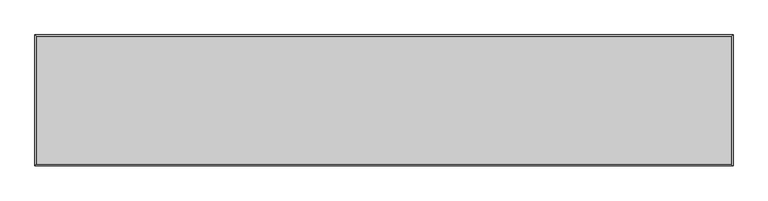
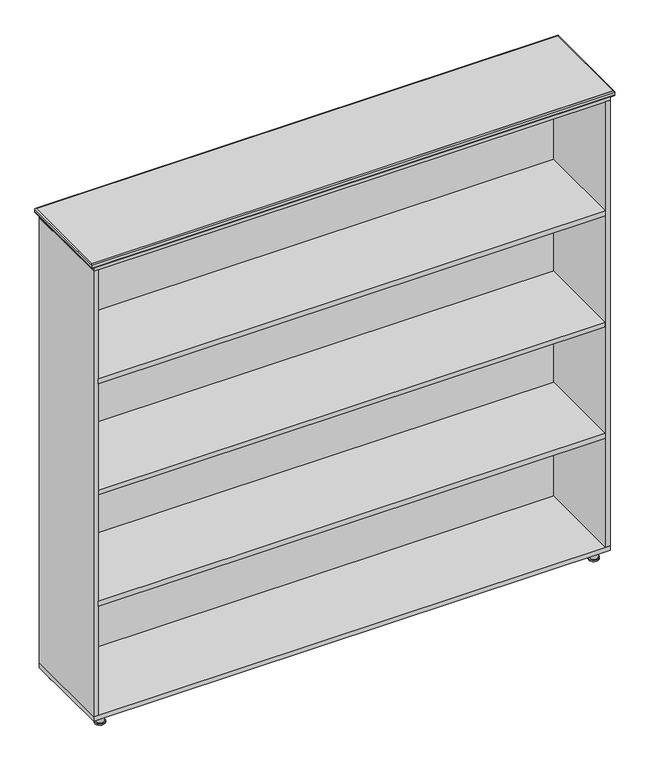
"""IFC4 building model written with IfcOpenShell, lengths in millimetres: furniture geometry, 书柜7 : W800*D419*H1515mm 4."""

from ifc_helpers import new_model, si_unit, point, frame, frame_2d, origin, origin_with_axes, place, context, project, spatial, polyline, circle_curve, ellipse_curve, trimmed, segment, composite_curve, outline, extrude, source, transform, mapped, element, save
from ifc_brep_helpers import plane_surface, cylinder_surface, advanced_brep


def furniture_b8bd35c5(model_context):
    return source(origin(), model_context, "Body", "SolidModel", [
        extrude(outline(polyline([(775.0, 159.2785466), (775.0, -115.0), (-775.0, -115.0), (-775.0, 159.2785466), (775.0, 159.2785466)])), frame((0.0, 0.0, 397.0), z_axis=(0.0, 0.0, 1.0), x_axis=(1.0, 0.0, 0.0)), (0.0, 0.0, 1.0), 16.0),
        extrude(outline(polyline([(775.0, 159.2785466), (775.0, -115.0), (-775.0, -115.0), (-775.0, 159.2785466), (775.0, 159.2785466)])), frame((0.0, 0.0, 1117.0), z_axis=(0.0, 0.0, 1.0), x_axis=(1.0, 0.0, 0.0)), (0.0, 0.0, 1.0), 16.0),
        extrude(outline(polyline([(775.0, 165.0), (775.0, 159.2785466), (-775.0, 159.2785466), (-775.0, 165.0), (775.0, 165.0)])), frame((0.0, 0.0, 45.0), z_axis=(0.0, 0.0, 1.0), x_axis=(1.0, 0.0, 0.0)), (0.0, 0.0, 1.0), 1440.0),
        extrude(outline(composite_curve([segment(trimmed(circle_curve(frame_2d((755.0, 149.3474913)), 11.561262), [point((766.561262, 149.3474913))], [point((743.438738, 149.3474913))], False, "CARTESIAN"), True, "CONTINUOUS"), segment(trimmed(circle_curve(frame_2d((755.0, 149.3474913)), 11.561262), [point((743.438738, 149.3474913))], [point((766.561262, 149.3474913))], False, "CARTESIAN"), True, "CONTINUOUS")], self_intersect=False)), frame((0.0, 0.0, 4.4532093), z_axis=(0.0, 0.0, 1.0), x_axis=(1.0, 0.0, 0.0)), (0.0, 0.0, 1.0), 25.5467907),
        extrude(outline(composite_curve([segment(trimmed(circle_curve(frame_2d((755.0, 149.3474913)), 15.4868656), [point((770.4868656, 149.3474913))], [point((739.5131344, 149.3474913))], False, "CARTESIAN"), True, "CONTINUOUS"), segment(trimmed(circle_curve(frame_2d((755.0, 149.3474913)), 15.4868656), [point((739.5131344, 149.3474913))], [point((770.4868656, 149.3474913))], False, "CARTESIAN"), True, "CONTINUOUS")], self_intersect=False)), origin_with_axes(), (0.0, 0.0, 1.0), 4.4532093),
        extrude(outline(composite_curve([segment(trimmed(circle_curve(frame_2d((-755.0, 149.3474913)), 11.561262), [point((-766.561262, 149.3474913))], [point((-743.438738, 149.3474913))], False, "CARTESIAN"), True, "CONTINUOUS"), segment(trimmed(circle_curve(frame_2d((-755.0, 149.3474913)), 11.561262), [point((-743.438738, 149.3474913))], [point((-766.561262, 149.3474913))], False, "CARTESIAN"), True, "CONTINUOUS")], self_intersect=False)), frame((0.0, 0.0, 4.4532093), z_axis=(0.0, 0.0, 1.0), x_axis=(1.0, 0.0, 0.0)), (0.0, 0.0, 1.0), 25.5467907),
        extrude(outline(composite_curve([segment(trimmed(circle_curve(frame_2d((-755.0, 149.3474913)), 15.4868656), [point((-770.4868656, 149.3474913))], [point((-739.5131344, 149.3474913))], False, "CARTESIAN"), True, "CONTINUOUS"), segment(trimmed(circle_curve(frame_2d((-755.0, 149.3474913)), 15.4868656), [point((-739.5131344, 149.3474913))], [point((-770.4868656, 149.3474913))], False, "CARTESIAN"), True, "CONTINUOUS")], self_intersect=False)), origin_with_axes(), (0.0, 0.0, 1.0), 4.4532093),
        extrude(outline(composite_curve([segment(trimmed(circle_curve(frame_2d((755.0, -88.0)), 11.561262), [point((766.561262, -88.0))], [point((743.438738, -88.0))], False, "CARTESIAN"), True, "CONTINUOUS"), segment(trimmed(circle_curve(frame_2d((755.0, -88.0)), 11.561262), [point((743.438738, -88.0))], [point((766.561262, -88.0))], False, "CARTESIAN"), True, "CONTINUOUS")], self_intersect=False)), frame((0.0, 0.0, 4.4532093), z_axis=(0.0, 0.0, 1.0), x_axis=(1.0, 0.0, 0.0)), (0.0, 0.0, 1.0), 25.5467907),
        extrude(outline(composite_curve([segment(trimmed(circle_curve(frame_2d((755.0, -88.0)), 15.4868656), [point((770.4868656, -88.0))], [point((739.5131344, -88.0))], False, "CARTESIAN"), True, "CONTINUOUS"), segment(trimmed(circle_curve(frame_2d((755.0, -88.0)), 15.4868656), [point((739.5131344, -88.0))], [point((770.4868656, -88.0))], False, "CARTESIAN"), True, "CONTINUOUS")], self_intersect=False)), origin_with_axes(), (0.0, 0.0, 1.0), 4.4532093),
        extrude(outline(composite_curve([segment(trimmed(circle_curve(frame_2d((-755.0, -88.0)), 11.561262), [point((-766.561262, -88.0))], [point((-743.438738, -88.0))], False, "CARTESIAN"), True, "CONTINUOUS"), segment(trimmed(circle_curve(frame_2d((-755.0, -88.0)), 11.561262), [point((-743.438738, -88.0))], [point((-766.561262, -88.0))], False, "CARTESIAN"), True, "CONTINUOUS")], self_intersect=False)), frame((0.0, 0.0, 4.4532093), z_axis=(0.0, 0.0, 1.0), x_axis=(1.0, 0.0, 0.0)), (0.0, 0.0, 1.0), 25.5467907),
        extrude(outline(composite_curve([segment(trimmed(circle_curve(frame_2d((-755.0, -88.0)), 15.4868656), [point((-770.4868656, -88.0))], [point((-739.5131344, -88.0))], False, "CARTESIAN"), True, "CONTINUOUS"), segment(trimmed(circle_curve(frame_2d((-755.0, -88.0)), 15.4868656), [point((-739.5131344, -88.0))], [point((-770.4868656, -88.0))], False, "CARTESIAN"), True, "CONTINUOUS")], self_intersect=False)), origin_with_axes(), (0.0, 0.0, 1.0), 4.4532093),
        advanced_brep(
        [(800.0, 178.0, 1512.0), (797.0, 175.0, 1515.0), (797.0, -119.0, 1515.0), (800.0, -122.0, 1512.0), (800.0, 178.0, 1503.0), (800.0, -122.0, 1503.0), (797.0, 175.0, 1500.0), (797.0, -119.0, 1500.0), (-797.0, -119.0, 1515.0), (-800.0, -122.0, 1512.0), (-800.0, -122.0, 1503.0), (-797.0, -119.0, 1500.0), (-797.0, 175.0, 1515.0), (-800.0, 178.0, 1512.0), (-800.0, 178.0, 1503.0), (-797.0, 175.0, 1500.0)],
        [
            (0, 1, ellipse_curve(frame((797.0, 175.0, 1512.0), z_axis=(0.7071067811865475, -0.7071067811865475, 0.0), x_axis=(0.7071067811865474, 0.7071067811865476, 0.0)), 4.2426407, 3.0)),
            (1, 2),
            (2, 3, ellipse_curve(frame((797.0, -119.0, 1512.0), z_axis=(0.7071067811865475, 0.7071067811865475, 0.0), x_axis=(-0.7071067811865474, 0.7071067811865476, 0.0)), 4.2426407, 3.0)),
            (3, 0),
            (4, 0),
            (3, 5),
            (5, 4),
            (6, 4, ellipse_curve(frame((797.0, 175.0, 1503.0), z_axis=(0.7071067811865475, -0.7071067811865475, 0.0), x_axis=(0.7071067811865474, 0.7071067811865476, 0.0)), 4.2426407, 3.0)),
            (5, 7, ellipse_curve(frame((797.0, -119.0, 1503.0), z_axis=(0.7071067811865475, 0.7071067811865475, 0.0), x_axis=(-0.7071067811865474, 0.7071067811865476, 0.0)), 4.2426407, 3.0)),
            (7, 6),
            (1, 6),
            (7, 2),
            (2, 8),
            (8, 9, ellipse_curve(frame((-797.0, -119.0, 1512.0), z_axis=(0.7071067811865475, -0.7071067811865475, 0.0), x_axis=(0.7071067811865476, 0.7071067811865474, 0.0)), 4.2426407, 3.0)),
            (9, 3),
            (9, 10),
            (10, 5),
            (10, 11, ellipse_curve(frame((-797.0, -119.0, 1503.0), z_axis=(0.7071067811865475, -0.7071067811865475, 0.0), x_axis=(0.7071067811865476, 0.7071067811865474, 0.0)), 4.2426407, 3.0)),
            (11, 7),
            (11, 8),
            (8, 12),
            (12, 13, ellipse_curve(frame((-797.0, 175.0, 1512.0), z_axis=(-0.7071067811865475, -0.7071067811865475, 0.0), x_axis=(0.7071067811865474, -0.7071067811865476, 0.0)), 4.2426407, 3.0)),
            (13, 9),
            (13, 14),
            (14, 10),
            (14, 15, ellipse_curve(frame((-797.0, 175.0, 1503.0), z_axis=(-0.7071067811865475, -0.7071067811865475, 0.0), x_axis=(0.7071067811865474, -0.7071067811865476, 0.0)), 4.2426407, 3.0)),
            (15, 11),
            (15, 12),
            (12, 1),
            (0, 13),
            (4, 14),
            (6, 15),
        ],
        [
            cylinder_surface(frame((797.0, 178.0, 1512.0), z_axis=(0.0, 1.0, 0.0), x_axis=(1.0, 0.0, 0.0)), 3.0),
            plane_surface(frame((800.0, 178.0, 1512.0), z_axis=(1.0, 0.0, 0.0), x_axis=(0.0, -1.0, 0.0))),
            cylinder_surface(frame((797.0, 178.0, 1503.0), z_axis=(0.0, 1.0, 0.0), x_axis=(1.0, 0.0, 0.0)), 3.0),
            plane_surface(frame((797.0, 175.0, 1500.0), z_axis=(-1.0, 0.0, 0.0), x_axis=(0.0, -1.0, 0.0))),
            cylinder_surface(frame((800.0, -119.0, 1512.0), z_axis=(1.0, 0.0, 0.0), x_axis=(0.0, -1.0, 0.0)), 3.0),
            plane_surface(frame((800.0, -122.0, 1512.0), z_axis=(0.0, -1.0, 0.0), x_axis=(-1.0, 0.0, 0.0))),
            cylinder_surface(frame((800.0, -119.0, 1503.0), z_axis=(1.0, 0.0, 0.0), x_axis=(0.0, -1.0, 0.0)), 3.0),
            plane_surface(frame((797.0, -119.0, 1500.0), z_axis=(0.0, 1.0, 0.0), x_axis=(-1.0, 0.0, 0.0))),
            cylinder_surface(frame((-797.0, -122.0, 1512.0), z_axis=(0.0, -1.0, 0.0), x_axis=(-1.0, 0.0, 0.0)), 3.0),
            plane_surface(frame((-800.0, -122.0, 1512.0), z_axis=(-1.0, 0.0, 0.0), x_axis=(0.0, 1.0, 0.0))),
            cylinder_surface(frame((-797.0, -122.0, 1503.0), z_axis=(0.0, -1.0, 0.0), x_axis=(-1.0, 0.0, 0.0)), 3.0),
            plane_surface(frame((-797.0, -119.0, 1500.0), z_axis=(1.0, 0.0, 0.0), x_axis=(0.0, 1.0, 0.0))),
            cylinder_surface(frame((-800.0, 175.0, 1512.0), z_axis=(-1.0, 0.0, 0.0), x_axis=(0.0, 1.0, 0.0)), 3.0),
            plane_surface(frame((-800.0, 178.0, 1512.0), z_axis=(0.0, 1.0, 0.0), x_axis=(1.0, 0.0, 0.0))),
            cylinder_surface(frame((-800.0, 175.0, 1503.0), z_axis=(-1.0, 0.0, 0.0), x_axis=(0.0, 1.0, 0.0)), 3.0),
            plane_surface(frame((-797.0, 175.0, 1500.0), z_axis=(0.0, -1.0, 0.0), x_axis=(1.0, 0.0, 0.0))),
        ],
        [
            (0, [[1, 2, 3, 4]]),
            (1, [[5, -4, 6, 7]]),
            (2, [[8, -7, 9, 10]]),
            (3, [[11, -10, 12, -2]]),
            (4, [[-3, 13, 14, 15]]),
            (5, [[-6, -15, 16, 17]]),
            (6, [[-9, -17, 18, 19]]),
            (7, [[-12, -19, 20, -13]]),
            (8, [[-14, 21, 22, 23]]),
            (9, [[-16, -23, 24, 25]]),
            (10, [[-18, -25, 26, 27]]),
            (11, [[-20, -27, 28, -21]]),
            (12, [[-22, 29, -1, 30]]),
            (13, [[-24, -30, -5, 31]]),
            (14, [[-26, -31, -8, 32]]),
            (15, [[-28, -32, -11, -29]]),
        ],
    ),
        extrude(outline(polyline([(797.0, 175.0), (797.0, -119.0), (-797.0, -119.0), (-797.0, 175.0), (797.0, 175.0)])), frame((0.0, 0.0, 1500.0), z_axis=(0.0, 0.0, 1.0), x_axis=(1.0, 0.0, 0.0)), (0.0, 0.0, 1.0), 15.0),
        extrude(outline(polyline([(775.0, -115.0), (775.0, 172.0), (790.0, 172.0), (790.0, -115.0), (775.0, -115.0)])), frame((0.0, 0.0, 45.0), z_axis=(0.0, 0.0, 1.0), x_axis=(1.0, 0.0, 0.0)), (0.0, 0.0, 1.0), 1440.0),
        extrude(outline(polyline([(-775.0, 172.0), (-775.0, -115.0), (-790.0, -115.0), (-790.0, 172.0), (-775.0, 172.0)])), frame((0.0, 0.0, 45.0), z_axis=(0.0, 0.0, 1.0), x_axis=(1.0, 0.0, 0.0)), (0.0, 0.0, 1.0), 1440.0),
        extrude(outline(polyline([(775.0, 159.2785466), (775.0, -115.0), (-775.0, -115.0), (-775.0, 159.2785466), (775.0, 159.2785466)])), frame((0.0, 0.0, 757.5), z_axis=(0.0, 0.0, 1.0), x_axis=(1.0, 0.0, 0.0)), (0.0, 0.0, 1.0), 15.0),
        extrude(outline(polyline([(790.0, -115.0), (-790.0, -115.0), (-790.0, 172.0), (790.0, 172.0), (790.0, -115.0)])), frame((0.0, 0.0, 1485.0), z_axis=(0.0, 0.0, 1.0), x_axis=(1.0, 0.0, 0.0)), (0.0, 0.0, 1.0), 15.0),
        extrude(outline(polyline([(790.0, -115.0), (-790.0, -115.0), (-790.0, 172.0), (790.0, 172.0), (790.0, -115.0)])), frame((0.0, 0.0, 30.0), z_axis=(0.0, 0.0, 1.0), x_axis=(1.0, 0.0, 0.0)), (0.0, 0.0, 1.0), 15.0),
    ])


if __name__ == "__main__":
    model = new_model("IFC4")
    model_context = context("Model", 3, world=origin())
    ifc_project = project(units=[si_unit("LENGTHUNIT", "METRE", prefix="MILLI")], contexts=[model_context])
    site = spatial("IfcSite", under=ifc_project)
    building = spatial("IfcBuilding", under=site)
    placement = place(None, origin())
    furniture_shape = furniture_b8bd35c5(model_context)
    element("IfcFurniture", 1, ObjectType="书柜7 : W800*D419*H1515mm 4", at=placement, inside=building, context=model_context, shape_type="MappedRepresentation", body=[
        mapped(furniture_shape, transform((0.0, 0.0, 0.0), x_axis=(1.0, 0.0, 0.0), y_axis=(0.0, 1.0, 0.0), z_axis=(0.0, 0.0, 1.0))),
    ])
    save(model, "model.ifc")
